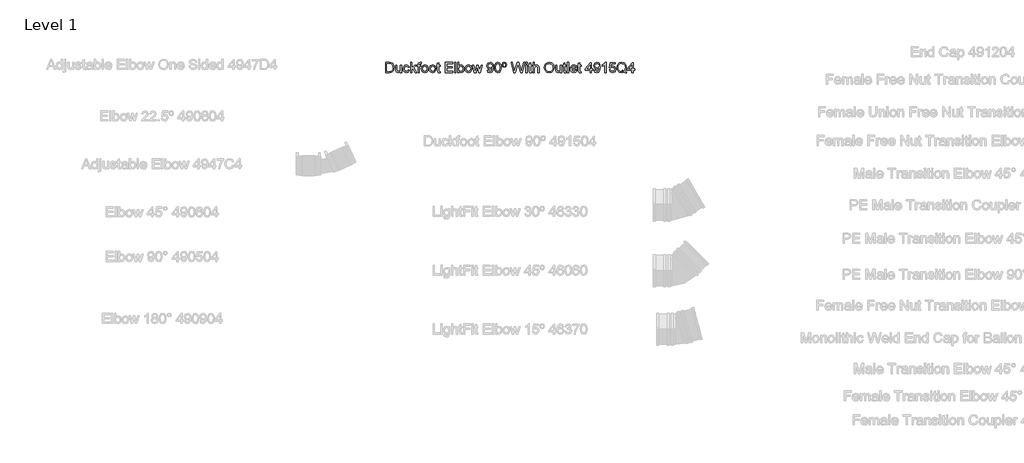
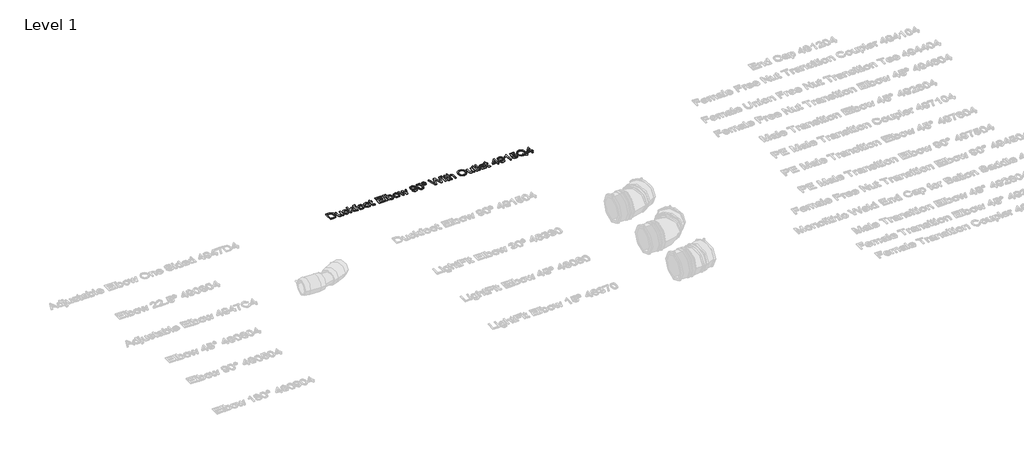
# One storey, part 17 of 38: 1 proxy.
"""IFC4 building model written with IfcOpenShell, lengths in millimetres."""

from ifc_helpers import new_model, si_unit, origin, origin_with_axes, place, context, project, spatial, polyline, outline, extrude, element, save

model = new_model("IFC4")

# Units and contexts
model_context = context("Model", 3, world=origin())
ifc_project = project(units=[si_unit("LENGTHUNIT", "METRE", prefix="MILLI")], contexts=[model_context])

# Site, building, storey
site = spatial("IfcSite", under=ifc_project)
building = spatial("IfcBuilding", under=site)
storey = spatial("IfcBuildingStorey", under=building, Name="Level 1", Elevation=0.0)

# Proxy
placement = place(None, origin())
element("IfcBuildingElementProxy", 1, Name="100 mm Arial", ObjectType="100 mm Arial", at=placement, inside=storey, context=model_context, shape_type="SweptSolid", body=[
    extrude(outline(polyline([(12963.4586957, 4990.1262933), (12963.4586957, 5049.2032164), (12983.8385034, 5049.2032164), (12994.3817727, 5048.3522548), (13003.064465, 5044.1262933), (13010.0596573, 5034.0301394), (13012.3817727, 5019.9820625), (13010.8096573, 5008.0613894), (13006.7711957, 4999.4580241), (13001.376965, 4994.099851), (12994.3168688, 4991.1359087), (12984.8192727, 4990.1262933), (12963.4586957, 4990.1262933)]), holes=[polyline([(12970.8433111, 4997.5109087), (12983.9106188, 4997.5109087), (12993.4154265, 4998.5782164), (12998.8961957, 5001.5926394), (13003.3889842, 5008.9267741), (13004.9971573, 5020.0974471), (13001.845715, 5034.0878318), (12994.1798496, 5040.6359087), (12983.7086957, 5041.818601), (12970.8433111, 5041.818601), (12970.8433111, 4997.5109087)])]), origin_with_axes(), (0.0, 0.0, 1.0), 5.0),
    extrude(outline(polyline([(13049.3048496, 4990.1262933), (13049.3048496, 4997.5830241), (13043.5211957, 4991.2981683), (13035.9779265, 4989.2032164), (13029.033215, 4990.6743702), (13024.2447534, 4994.3666779), (13022.0452342, 4999.8041779), (13021.6125419, 5006.6695625), (13021.6125419, 5033.5109087), (13028.9971573, 5033.5109087), (13028.9971573, 5010.1455241), (13029.4442727, 5002.6166779), (13032.3649457, 4998.1960048), (13037.8673496, 4996.5878318), (13044.033215, 4998.2320625), (13048.1077342, 5002.7104279), (13049.3048496, 5010.9387933), (13049.3048496, 5033.5109087), (13056.689465, 5033.5109087), (13056.689465, 4990.1262933), (13049.3048496, 4990.1262933)])), origin_with_axes(), (0.0, 0.0, 1.0), 5.0),
    extrude(outline(polyline([(13094.5356188, 5005.818601), (13101.9202342, 5004.8955241), (13095.9923496, 4993.3642741), (13084.2808111, 4989.2032164), (13076.4256429, 4990.6545385), (13070.283215, 4995.0085048), (13066.3186717, 5002.0740096), (13064.9971573, 5011.6599471), (13067.2543688, 5023.9267741), (13074.1341765, 5031.8089856), (13084.1798496, 5034.4339856), (13095.408215, 5030.8282164), (13100.9971573, 5020.5878318), (13093.6125419, 5019.6647548), (13090.1870611, 5025.1960048), (13084.2375419, 5027.0493702), (13075.6774457, 5023.4003318), (13072.3817727, 5011.8618702), (13075.6053304, 5000.2152356), (13084.0356188, 4996.5878318), (13090.9947534, 4998.8522548), (13094.5356188, 5005.818601)])), origin_with_axes(), (0.0, 0.0, 1.0), 5.0),
    extrude(outline(polyline([(13108.3817727, 4990.1262933), (13108.3817727, 5049.2032164), (13115.766388, 5049.2032164), (13115.766388, 5017.4580241), (13132.3240804, 5033.5109087), (13142.5356188, 5033.5109087), (13125.7760034, 5017.256101), (13143.4586957, 4990.1262933), (13134.8336957, 4990.1262933), (13120.4827342, 5012.1214856), (13115.766388, 5007.5493702), (13115.766388, 4990.1262933), (13108.3817727, 4990.1262933)])), origin_with_axes(), (0.0, 0.0, 1.0), 5.0),
    extrude(outline(polyline([(13151.766388, 4990.1262933), (13151.766388, 5026.1262933), (13145.3048496, 5026.1262933), (13145.3048496, 5033.5109087), (13151.766388, 5033.5109087), (13151.766388, 5037.881101), (13152.5452342, 5044.0397548), (13156.3240804, 5048.4387933), (13163.766388, 5050.1262933), (13170.501965, 5049.318601), (13169.4202342, 5042.3955241), (13165.1654265, 5042.7416779), (13160.5139842, 5041.5157164), (13159.1510034, 5036.943601), (13159.1510034, 5033.5109087), (13167.4586957, 5033.5109087), (13167.4586957, 5026.1262933), (13159.1510034, 5026.1262933), (13159.1510034, 4990.1262933), (13151.766388, 4990.1262933)])), origin_with_axes(), (0.0, 0.0, 1.0), 5.0),
    extrude(outline(polyline([(13172.0740804, 5011.818601), (13173.6714361, 5022.2789375), (13178.4635034, 5029.631101), (13191.4731188, 5034.4339856), (13199.2309313, 5032.9718462), (13205.4274457, 5028.5854279), (13209.4893448, 5021.6208846), (13210.8433111, 5012.4243702), (13208.4490804, 4999.2849471), (13201.4755227, 4991.849851), (13191.4731188, 4989.2032164), (13183.6215563, 4990.6599471), (13177.4322534, 4995.0301394), (13173.4136236, 5002.1407164), (13172.0740804, 5011.818601)]), holes=[polyline([(13179.4586957, 5011.8330241), (13182.876965, 5000.3883125), (13191.4731188, 4996.5878318), (13200.0404265, 5000.4099471), (13203.4586957, 5012.0637933), (13200.0187919, 5023.2488894), (13191.4731188, 5027.0493702), (13182.876965, 5023.2633125), (13179.4586957, 5011.8330241)])]), origin_with_axes(), (0.0, 0.0, 1.0), 5.0),
    extrude(outline(polyline([(13217.3048496, 5011.818601), (13218.9022054, 5022.2789375), (13223.6942727, 5029.631101), (13236.703888, 5034.4339856), (13244.4617005, 5032.9718462), (13250.658215, 5028.5854279), (13254.720114, 5021.6208846), (13256.0740804, 5012.4243702), (13253.6798496, 4999.2849471), (13246.7062919, 4991.849851), (13236.703888, 4989.2032164), (13228.8523255, 4990.6599471), (13222.6630227, 4995.0301394), (13218.6443929, 5002.1407164), (13217.3048496, 5011.818601)]), holes=[polyline([(13224.689465, 5011.8330241), (13228.1077342, 5000.3883125), (13236.703888, 4996.5878318), (13245.2711957, 5000.4099471), (13248.689465, 5012.0637933), (13245.2495611, 5023.2488894), (13236.703888, 5027.0493702), (13228.1077342, 5023.2633125), (13224.689465, 5011.8330241)])]), origin_with_axes(), (0.0, 0.0, 1.0), 5.0),
    extrude(outline(polyline([(13280.0740804, 4996.2849471), (13280.9971573, 4989.9099471), (13275.4731188, 4989.2032164), (13269.2856188, 4990.4291779), (13266.1990804, 4993.6455241), (13265.3048496, 5002.0253318), (13265.3048496, 5026.1262933), (13259.766388, 5026.1262933), (13259.766388, 5033.5109087), (13265.3048496, 5033.5109087), (13265.3048496, 5044.0541779), (13272.689465, 5048.3955241), (13272.689465, 5033.5109087), (13280.0740804, 5033.5109087), (13280.0740804, 5026.1262933), (13272.689465, 5026.1262933), (13272.689465, 5002.2416779), (13273.078888, 4998.4339856), (13274.3409073, 4997.0854279), (13276.8577342, 4996.5878318), (13280.0740804, 4996.2849471)])), origin_with_axes(), (0.0, 0.0, 1.0), 5.0),
    extrude(outline(polyline([(13311.4586957, 4990.1262933), (13311.4586957, 5049.2032164), (13353.9202342, 5049.2032164), (13353.9202342, 5041.818601), (13318.8433111, 5041.818601), (13318.8433111, 5024.2801394), (13352.0740804, 5024.2801394), (13352.0740804, 5016.8955241), (13318.8433111, 5016.8955241), (13318.8433111, 4997.5109087), (13354.8433111, 4997.5109087), (13354.8433111, 4990.1262933), (13311.4586957, 4990.1262933)])), origin_with_axes(), (0.0, 0.0, 1.0), 5.0),
    extrude(outline(polyline([(13364.9971573, 4990.1262933), (13364.9971573, 5049.2032164), (13372.3817727, 5049.2032164), (13372.3817727, 4990.1262933), (13364.9971573, 4990.1262933)])), origin_with_axes(), (0.0, 0.0, 1.0), 5.0),
    extrude(outline(polyline([(13390.8433111, 4990.1262933), (13383.4586957, 4990.1262933), (13383.4586957, 5049.2032164), (13390.8433111, 5049.2032164), (13390.8433111, 5027.2945625), (13396.0139842, 5032.6491298), (13402.439465, 5034.4339856), (13409.8385034, 5032.8258125), (13415.578888, 5028.3041779), (13419.1053304, 5021.2729279), (13420.3817727, 5012.4676394), (13419.0602582, 5002.6094664), (13415.095715, 4995.2753318), (13409.2778063, 4990.7212452), (13402.3961957, 4989.2032164), (13395.83009, 4991.1611491), (13390.8433111, 4997.0349471), (13390.8433111, 4990.1262933)]), holes=[polyline([(13390.8433111, 5012.1214856), (13392.8625419, 5001.7945625), (13401.7615804, 4996.5878318), (13409.6654265, 5000.4243702), (13412.9971573, 5011.8618702), (13409.8024457, 5023.3426394), (13402.078888, 5027.0493702), (13394.1750419, 5023.2128318), (13390.8433111, 5012.1214856)])]), origin_with_axes(), (0.0, 0.0, 1.0), 5.0),
    extrude(outline(polyline([(13426.8433111, 5011.818601), (13428.4406669, 5022.2789375), (13433.2327342, 5029.631101), (13446.2423496, 5034.4339856), (13454.0001621, 5032.9718462), (13460.1966765, 5028.5854279), (13464.2585755, 5021.6208846), (13465.6125419, 5012.4243702), (13463.2183111, 4999.2849471), (13456.2447534, 4991.849851), (13446.2423496, 4989.2032164), (13438.3907871, 4990.6599471), (13432.2014842, 4995.0301394), (13428.1828544, 5002.1407164), (13426.8433111, 5011.818601)]), holes=[polyline([(13434.2279265, 5011.8330241), (13437.6461957, 5000.3883125), (13446.2423496, 4996.5878318), (13454.8096573, 5000.4099471), (13458.2279265, 5012.0637933), (13454.7880227, 5023.2488894), (13446.2423496, 5027.0493702), (13437.6461957, 5023.2633125), (13434.2279265, 5011.8330241)])]), origin_with_axes(), (0.0, 0.0, 1.0), 5.0),
    extrude(outline(polyline([(13481.1173496, 4990.1262933), (13467.9202342, 5033.5109087), (13475.5933111, 5033.5109087), (13483.078888, 5008.1984087), (13485.314465, 4999.1551394), (13487.1461957, 5007.8666779), (13493.1029265, 5033.5109087), (13501.9010034, 5033.5109087), (13507.828888, 5007.9387933), (13509.4586957, 5000.0493702), (13511.7952342, 5008.3714856), (13519.2952342, 5033.5109087), (13526.9971573, 5033.5109087), (13513.6990804, 4990.1262933), (13504.7711957, 4990.1262933), (13499.1029265, 5015.568601), (13497.4586957, 5023.5012933), (13490.1461957, 4990.1262933), (13481.1173496, 4990.1262933)])), origin_with_axes(), (0.0, 0.0, 1.0), 5.0),
    extrude(outline(polyline([(13554.2279265, 5004.8955241), (13561.6125419, 5005.818601), (13564.9298496, 4998.7729279), (13571.2183111, 4996.5878318), (13577.1966765, 4997.9940818), (13581.2495611, 5001.7512933), (13583.6654265, 5008.1695625), (13584.7327342, 5016.7368702), (13578.783215, 5012.5830241), (13570.6846573, 5010.4339856), (13558.345715, 5015.6839856), (13553.3048496, 5029.5157164), (13558.5909073, 5043.7945625), (13571.8385034, 5049.2032164), (13582.360138, 5046.1166779), (13589.6005227, 5037.318601), (13592.0740804, 5020.7897548), (13589.6077342, 5002.8546587), (13582.2735996, 4992.693601), (13570.8721573, 4989.2032164), (13559.5211957, 4993.3210048), (13554.2279265, 5004.8955241)]), holes=[polyline([(13584.689465, 5029.6887933), (13581.501965, 5038.5445625), (13573.0356188, 5041.818601), (13564.1510034, 5038.2921587), (13560.689465, 5029.1551394), (13563.9635034, 5020.9700433), (13572.8336957, 5017.818601), (13581.3505227, 5020.9700433), (13584.689465, 5029.6887933)])]), origin_with_axes(), (0.0, 0.0, 1.0), 5.0),
    extrude(outline(polyline([(13598.5356188, 5019.1887933), (13600.7062919, 5036.1863894), (13607.1534073, 5045.9868702), (13617.9202342, 5049.2032164), (13626.5452342, 5047.2993702), (13632.501965, 5041.8113894), (13635.9635034, 5033.0710048), (13637.3048496, 5019.1887933), (13635.1558111, 5002.2633125), (13628.7303304, 4992.4411971), (13617.9202342, 4989.2032164), (13610.2471573, 4990.6094664), (13604.4202342, 4994.8282164), (13600.0067727, 5004.8198029), (13598.5356188, 5019.1887933)]), holes=[polyline([(13605.9202342, 5019.2032164), (13609.3817727, 5000.8642741), (13617.9202342, 4996.5878318), (13626.4586957, 5000.8786971), (13629.9202342, 5019.2032164), (13626.5740804, 5037.3330241), (13617.8336957, 5041.818601), (13609.4971573, 5037.8666779), (13605.9202342, 5019.2032164)])]), origin_with_axes(), (0.0, 0.0, 1.0), 5.0),
    extrude(outline(polyline([(13655.3048496, 5050.1262933), (13664.953888, 5046.0734087), (13668.689465, 5034.881101), (13664.9322534, 5023.7176394), (13655.3481188, 5019.6647548), (13645.6774457, 5023.6383125), (13641.9202342, 5034.7080241), (13645.6558111, 5046.0734087), (13655.3048496, 5050.1262933)]), holes=[polyline([(13655.3048496, 5044.5878318), (13650.9562919, 5042.3161971), (13649.3048496, 5034.8955241), (13650.985138, 5027.5397548), (13655.3048496, 5025.2032164), (13659.6389842, 5027.5397548), (13661.3048496, 5035.0974471), (13659.6245611, 5042.2729279), (13655.3048496, 5044.5878318)])]), origin_with_axes(), (0.0, 0.0, 1.0), 5.0),
    extrude(outline(polyline([(13710.6461957, 4990.1262933), (13694.5356188, 5049.2032164), (13702.1510034, 5049.2032164), (13711.4971573, 5010.3762933), (13714.3817727, 4998.3907164), (13717.4683111, 5008.9916779), (13729.1798496, 5049.2032164), (13740.1558111, 5049.2032164), (13748.6654265, 5020.0541779), (13754.9971573, 4998.3907164), (13757.7952342, 5010.0301394), (13767.2279265, 5049.2032164), (13774.8433111, 5049.2032164), (13758.7183111, 4990.1262933), (13750.828888, 4990.1262933), (13736.6654265, 5035.7032164), (13734.689465, 5042.0637933), (13732.4683111, 5034.4051394), (13719.5596573, 4990.1262933), (13710.6461957, 4990.1262933)])), origin_with_axes(), (0.0, 0.0, 1.0), 5.0),
    extrude(outline(polyline([(13781.3048496, 4990.1262933), (13781.3048496, 5033.5109087), (13788.689465, 5033.5109087), (13788.689465, 4990.1262933), (13781.3048496, 4990.1262933)])), origin_with_axes(), (0.0, 0.0, 1.0), 5.0),
    extrude(outline(polyline([(13781.3048496, 5041.818601), (13781.3048496, 5049.2032164), (13788.689465, 5049.2032164), (13788.689465, 5041.818601), (13781.3048496, 5041.818601)])), origin_with_axes(), (0.0, 0.0, 1.0), 5.0),
    extrude(outline(polyline([(13815.4586957, 4996.2849471), (13816.3817727, 4989.9099471), (13810.8577342, 4989.2032164), (13804.6702342, 4990.4291779), (13801.5836957, 4993.6455241), (13800.689465, 5002.0253318), (13800.689465, 5026.1262933), (13795.1510034, 5026.1262933), (13795.1510034, 5033.5109087), (13800.689465, 5033.5109087), (13800.689465, 5044.0541779), (13808.0740804, 5048.3955241), (13808.0740804, 5033.5109087), (13815.4586957, 5033.5109087), (13815.4586957, 5026.1262933), (13808.0740804, 5026.1262933), (13808.0740804, 5002.2416779), (13808.4635034, 4998.4339856), (13809.7255227, 4997.0854279), (13812.2423496, 4996.5878318), (13815.4586957, 4996.2849471)])), origin_with_axes(), (0.0, 0.0, 1.0), 5.0),
    extrude(outline(polyline([(13822.8433111, 4990.1262933), (13822.8433111, 5049.2032164), (13830.2279265, 5049.2032164), (13830.2279265, 5027.4820625), (13835.98634, 5032.6960048), (13843.078888, 5034.4339856), (13851.3721573, 5032.537351), (13856.4058111, 5027.2945625), (13857.9202342, 5017.5878318), (13857.9202342, 4990.1262933), (13850.5356188, 4990.1262933), (13850.5356188, 5016.8234087), (13848.1846573, 5024.6118702), (13841.5211957, 5027.0493702), (13835.470715, 5025.4051394), (13831.4322534, 5020.9484087), (13830.2279265, 5013.1743702), (13830.2279265, 4990.1262933), (13822.8433111, 4990.1262933)])), origin_with_axes(), (0.0, 0.0, 1.0), 5.0),
    extrude(outline(polyline([(13889.3048496, 5018.8859087), (13891.2735996, 5031.9496106), (13897.1798496, 5041.8330241), (13906.1978784, 5048.052976), (13917.501965, 5050.1262933), (13932.1990804, 5046.2320625), (13942.1798496, 5035.3714856), (13945.6125419, 5019.5637933), (13941.9995611, 5003.5397548), (13931.7591765, 4992.8378318), (13917.4586957, 4989.2032164), (13902.6029265, 4993.2200433), (13892.6798496, 5004.1815818), (13889.3048496, 5018.8859087)]), holes=[polyline([(13896.689465, 5018.8137933), (13898.1660275, 5009.5722068), (13902.595715, 5002.5301394), (13909.2537679, 4998.0734087), (13917.4154265, 4996.5878318), (13925.6960755, 4998.0878318), (13932.3649457, 5002.5878318), (13936.7621813, 5009.8462452), (13938.2279265, 5019.6214856), (13935.7183111, 5031.8089856), (13928.3841765, 5039.8786971), (13917.5452342, 5042.7416779), (13902.8481188, 5037.224851), (13898.2291284, 5029.8636731), (13896.689465, 5018.8137933)])]), origin_with_axes(), (0.0, 0.0, 1.0), 5.0),
    extrude(outline(polyline([(13982.5356188, 4990.1262933), (13982.5356188, 4997.5830241), (13976.751965, 4991.2981683), (13969.2086957, 4989.2032164), (13962.2639842, 4990.6743702), (13957.4755227, 4994.3666779), (13955.2760034, 4999.8041779), (13954.8433111, 5006.6695625), (13954.8433111, 5033.5109087), (13962.2279265, 5033.5109087), (13962.2279265, 5010.1455241), (13962.6750419, 5002.6166779), (13965.595715, 4998.1960048), (13971.0981188, 4996.5878318), (13977.2639842, 4998.2320625), (13981.3385034, 5002.7104279), (13982.5356188, 5010.9387933), (13982.5356188, 5033.5109087), (13989.9202342, 5033.5109087), (13989.9202342, 4990.1262933), (13982.5356188, 4990.1262933)])), origin_with_axes(), (0.0, 0.0, 1.0), 5.0),
    extrude(outline(polyline([(14015.766388, 4996.2849471), (14016.689465, 4989.9099471), (14011.1654265, 4989.2032164), (14004.9779265, 4990.4291779), (14001.891388, 4993.6455241), (14000.9971573, 5002.0253318), (14000.9971573, 5026.1262933), (13995.4586957, 5026.1262933), (13995.4586957, 5033.5109087), (14000.9971573, 5033.5109087), (14000.9971573, 5044.0541779), (14008.3817727, 5048.3955241), (14008.3817727, 5033.5109087), (14015.766388, 5033.5109087), (14015.766388, 5026.1262933), (14008.3817727, 5026.1262933), (14008.3817727, 5002.2416779), (14008.7711957, 4998.4339856), (14010.033215, 4997.0854279), (14012.5500419, 4996.5878318), (14015.766388, 4996.2849471)])), origin_with_axes(), (0.0, 0.0, 1.0), 5.0),
    extrude(outline(polyline([(14023.1510034, 4990.1262933), (14023.1510034, 5049.2032164), (14030.5356188, 5049.2032164), (14030.5356188, 4990.1262933), (14023.1510034, 4990.1262933)])), origin_with_axes(), (0.0, 0.0, 1.0), 5.0),
    extrude(outline(polyline([(14071.9875419, 5003.0493702), (14079.2279265, 5002.1262933), (14072.4562919, 4992.5926394), (14059.8433111, 4989.2032164), (14051.1786477, 4990.6653558), (14044.5115804, 4995.0517741), (14040.2603784, 5002.0776154), (14038.8433111, 5011.4580241), (14040.2748015, 5021.1539375), (14044.5692727, 5028.4051394), (14051.1461957, 5032.9267741), (14059.4250419, 5034.4339856), (14067.4460755, 5032.9303798), (14073.8553304, 5028.4195625), (14078.0578544, 5021.1827837), (14079.4586957, 5011.5012933), (14079.4154265, 5009.5109087), (14046.2279265, 5009.5109087), (14050.4755227, 4999.9195625), (14059.9875419, 4996.5878318), (14067.2279265, 4998.131101), (14071.9875419, 5003.0493702)]), holes=[polyline([(14046.2279265, 5016.8955241), (14072.0740804, 5016.8955241), (14069.1173496, 5023.5878318), (14059.3961957, 5027.0493702), (14050.3024457, 5024.287351), (14046.2279265, 5016.8955241)])]), origin_with_axes(), (0.0, 0.0, 1.0), 5.0),
    extrude(outline(polyline([(14102.5356188, 4996.2849471), (14103.4586957, 4989.9099471), (14097.9346573, 4989.2032164), (14091.7471573, 4990.4291779), (14088.6606188, 4993.6455241), (14087.766388, 5002.0253318), (14087.766388, 5026.1262933), (14082.2279265, 5026.1262933), (14082.2279265, 5033.5109087), (14087.766388, 5033.5109087), (14087.766388, 5044.0541779), (14095.1510034, 5048.3955241), (14095.1510034, 5033.5109087), (14102.5356188, 5033.5109087), (14102.5356188, 5026.1262933), (14095.1510034, 5026.1262933), (14095.1510034, 5002.2416779), (14095.5404265, 4998.4339856), (14096.8024457, 4997.0854279), (14099.3192727, 4996.5878318), (14102.5356188, 4996.2849471)])), origin_with_axes(), (0.0, 0.0, 1.0), 5.0),
    extrude(outline(polyline([(14155.1510034, 4990.1262933), (14155.1510034, 5003.9724471), (14128.3817727, 5003.9724471), (14128.3817727, 5011.3570625), (14156.9971573, 5048.2801394), (14162.5356188, 5048.2801394), (14162.5356188, 5011.3570625), (14169.9202342, 5011.3570625), (14169.9202342, 5003.9724471), (14162.5356188, 5003.9724471), (14162.5356188, 4990.1262933), (14155.1510034, 4990.1262933)]), holes=[polyline([(14155.1510034, 5011.3570625), (14155.1510034, 5034.1743702), (14137.4683111, 5011.3570625), (14155.1510034, 5011.3570625)])]), origin_with_axes(), (0.0, 0.0, 1.0), 5.0),
    extrude(outline(polyline([(14177.3048496, 5004.8955241), (14184.689465, 5005.818601), (14188.0067727, 4998.7729279), (14194.2952342, 4996.5878318), (14200.2735996, 4997.9940818), (14204.3264842, 5001.7512933), (14206.7423496, 5008.1695625), (14207.8096573, 5016.7368702), (14201.860138, 5012.5830241), (14193.7615804, 5010.4339856), (14181.422638, 5015.6839856), (14176.3817727, 5029.5157164), (14181.6678304, 5043.7945625), (14194.9154265, 5049.2032164), (14205.4370611, 5046.1166779), (14212.6774457, 5037.318601), (14215.1510034, 5020.7897548), (14212.6846573, 5002.8546587), (14205.3505227, 4992.693601), (14193.9490804, 4989.2032164), (14182.5981188, 4993.3210048), (14177.3048496, 5004.8955241)]), holes=[polyline([(14207.766388, 5029.6887933), (14204.578888, 5038.5445625), (14196.1125419, 5041.818601), (14187.2279265, 5038.2921587), (14183.766388, 5029.1551394), (14187.0404265, 5020.9700433), (14195.9106188, 5017.818601), (14204.4274457, 5020.9700433), (14207.766388, 5029.6887933)])]), origin_with_axes(), (0.0, 0.0, 1.0), 5.0),
    extrude(outline(polyline([(14249.3048496, 4990.1262933), (14241.9202342, 4990.1262933), (14241.9202342, 5036.1647548), (14234.9250419, 5031.1815818), (14227.1510034, 5027.4532164), (14227.1510034, 5034.4339856), (14237.9755227, 5041.3426394), (14244.5452342, 5049.2032164), (14249.3048496, 5049.2032164), (14249.3048496, 4990.1262933)])), origin_with_axes(), (0.0, 0.0, 1.0), 5.0),
    extrude(outline(polyline([(14266.8433111, 5005.818601), (14274.2279265, 5006.7416779), (14277.9490804, 4999.1335048), (14285.6654265, 4996.5878318), (14294.9250419, 5000.1286971), (14298.2279265, 5009.5253318), (14295.1341765, 5018.2945625), (14285.7808111, 5021.5109087), (14279.297638, 5020.2272548), (14275.1510034, 5016.8955241), (14267.766388, 5017.818601), (14274.2279265, 5048.2801394), (14302.8433111, 5048.2801394), (14302.8433111, 5040.8955241), (14280.1990804, 5040.8955241), (14277.0404265, 5024.6262933), (14287.8433111, 5028.8955241), (14300.470715, 5023.6022548), (14305.6125419, 5009.9868702), (14300.9827342, 4996.2849471), (14294.3336957, 4990.9736491), (14285.6365804, 4989.2032164), (14272.6053304, 4993.7536971), (14266.8433111, 5005.818601)])), origin_with_axes(), (0.0, 0.0, 1.0), 5.0),
    extrude(outline(polyline([(14359.2231188, 4997.2080241), (14368.3817727, 4991.0493702), (14366.391388, 4985.6407164), (14354.2327342, 4992.5493702), (14339.8817727, 4989.2032164), (14325.501965, 4993.0613894), (14315.5572534, 5003.9075433), (14312.0740804, 5019.6503318), (14315.5500419, 5035.5085048), (14325.4442727, 5046.3907164), (14339.8096573, 5050.1262933), (14354.2687919, 5046.3041779), (14364.0836957, 5035.6022548), (14367.4586957, 5020.0830241), (14365.4106188, 5007.1743702), (14359.2231188, 4997.2080241)]), holes=[polyline([(14341.9154265, 5007.0301394), (14353.1365804, 5001.4195625), (14358.3397054, 5009.0349471), (14360.0740804, 5019.7080241), (14357.6221573, 5031.8306202), (14350.4466765, 5039.8786971), (14339.8529265, 5042.7416779), (14331.8048496, 5041.2939616), (14325.2567727, 5036.9508125), (14320.908215, 5029.7338654), (14319.4586957, 5019.6647548), (14320.891989, 5009.8119904), (14325.1918688, 5002.5517741), (14331.720114, 4998.0788173), (14339.8385034, 4996.5878318), (14347.7856188, 4998.1022548), (14340.0115804, 5001.3762933), (14341.9154265, 5007.0301394)])]), origin_with_axes(), (0.0, 0.0, 1.0), 5.0),
    extrude(outline(polyline([(14399.766388, 4990.1262933), (14399.766388, 5003.9724471), (14372.9971573, 5003.9724471), (14372.9971573, 5011.3570625), (14401.6125419, 5048.2801394), (14407.1510034, 5048.2801394), (14407.1510034, 5011.3570625), (14414.5356188, 5011.3570625), (14414.5356188, 5003.9724471), (14407.1510034, 5003.9724471), (14407.1510034, 4990.1262933), (14399.766388, 4990.1262933)]), holes=[polyline([(14399.766388, 5011.3570625), (14399.766388, 5034.1743702), (14382.0836957, 5011.3570625), (14399.766388, 5011.3570625)])]), origin_with_axes(), (0.0, 0.0, 1.0), 5.0),
])

save(model, "model.ifc")
